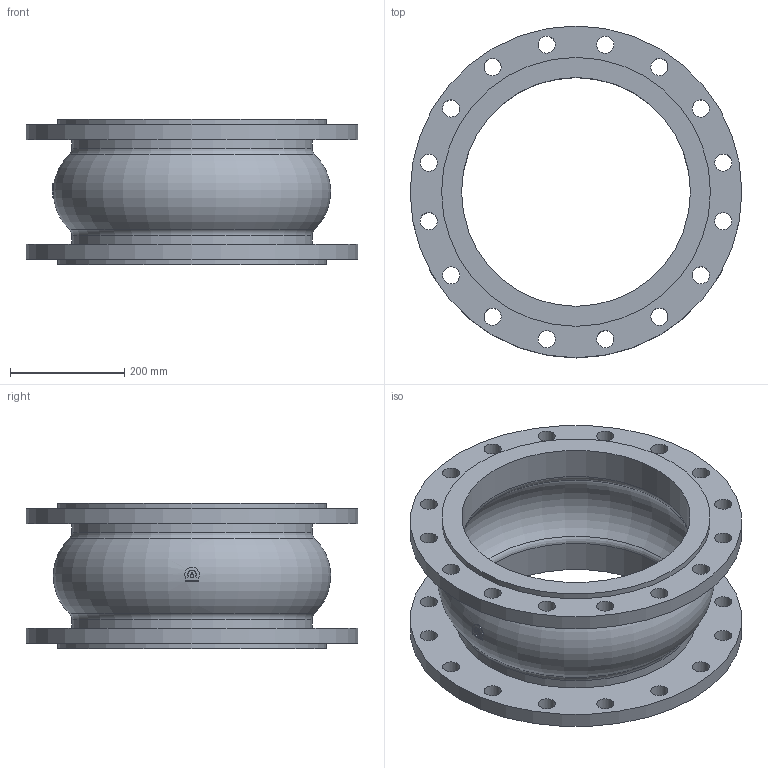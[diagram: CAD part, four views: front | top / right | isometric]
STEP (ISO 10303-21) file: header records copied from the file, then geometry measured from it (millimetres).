
FILE_DESCRIPTION(('STEP AP203'), '1');
FILE_NAME('Êîìïåíñàòîð KMS DN400 PN16_L255', '', ('UNSPECIFIED'), ('UNSPECIFIED'), 'ASCON STEP Converter 1.6', 'ASCON Math Kernel', '');
FILE_SCHEMA(('CONFIG_CONTROL_DESIGN'));
Length unit declared in the file: millimetre
Bounding box: 580 x 580 x 255 mm (x, y, z)
Volume: 10394746.3 mm3; surface area: 1336968.6 mm2
Topology: 1 solids, 1 shells, 69 faces, 172 edges, 112 vertices
Faces by surface type: cylinder 47, plane 13, torus 9
Full cylindrical faces by diameter (mm): 30 x32, 400 x2, 420 x2, 470 x2, 580 x2
Entity records: 3577 total; most frequent: CARTESIAN_POINT 1348, DIRECTION 334, ORIENTED_EDGE 252, EDGE_LOOP 188, AXIS2_PLACEMENT_3D 160, EDGE_CURVE 126, VERTEX_POINT 112, FACE_BOUND 96
